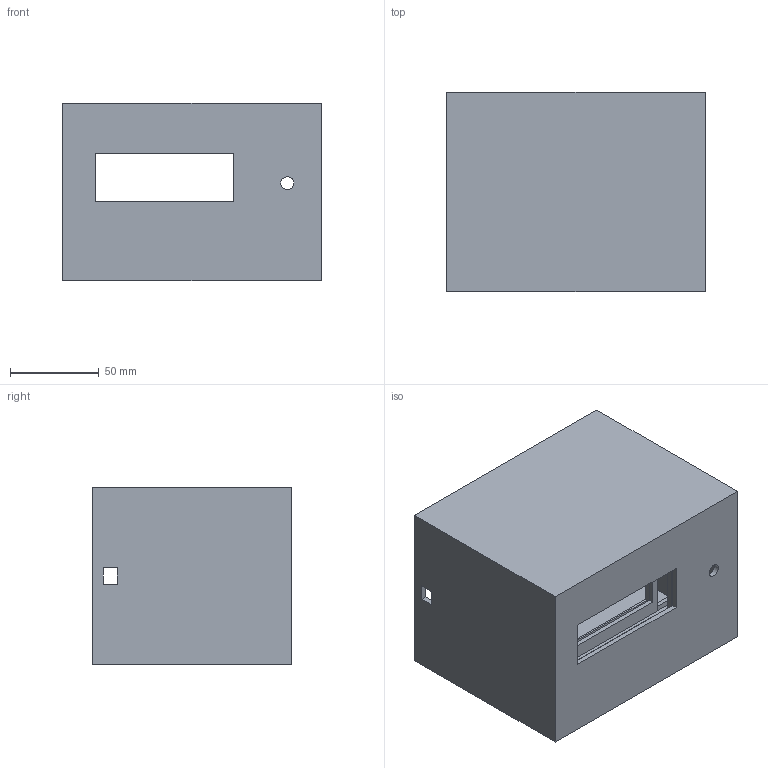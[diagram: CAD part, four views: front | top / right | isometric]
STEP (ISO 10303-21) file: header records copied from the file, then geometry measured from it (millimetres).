
FILE_DESCRIPTION(('Open CASCADE Model'),'2;1');
FILE_NAME('Open CASCADE Shape Model','2026-11-04T20:36:17',('Author'),( 'Open CASCADE'),'Open CASCADE STEP processor 7.8','Open CASCADE 7.8' ,'Unknown');
FILE_SCHEMA(('AUTOMOTIVE_DESIGN { 1 0 10303 214 1 1 1 1 }'));
Length unit declared in the file: millimetre
Products named in the file (1): Open CASCADE STEP translator 7.8 1
Bounding box: 145 x 112 x 100 mm (x, y, z)
Volume: 217833.5 mm3; surface area: 158748.3 mm2
Topology: 1 solids, 1 shells, 211 faces, 608 edges, 404 vertices
Faces by surface type: plane 209, cylinder 2
Full cylindrical faces by diameter (mm): 7.2 x1, 16 x1
Entity records: 14290 total; most frequent: CARTESIAN_POINT 2906, DIRECTION 1786, LINE 1350, VECTOR 1350, ORIENTED_EDGE 1216, PCURVE 1216, DEFINITIONAL_REPRESENTATION 1216, EDGE_CURVE 608
